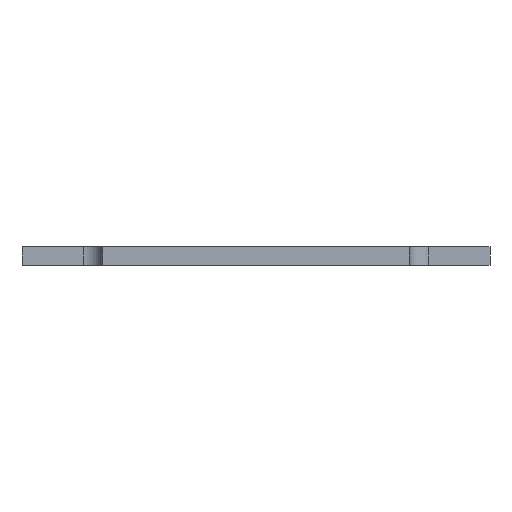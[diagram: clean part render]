
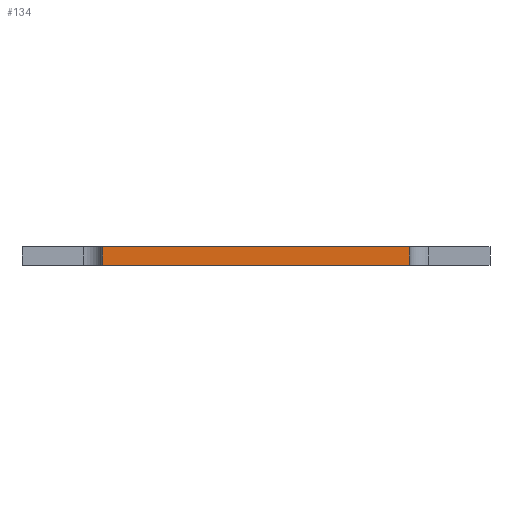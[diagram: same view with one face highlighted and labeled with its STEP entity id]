
A CAD part, front view. The second image highlights one B-rep face of the part: STEP entity #134.
In plain terms, the highlighted planar face has unit normal (0, -1, 0).
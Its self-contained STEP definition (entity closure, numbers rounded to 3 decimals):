
#80=FACE_OUTER_BOUND('',#286,.T.);
#134=ADVANCED_FACE('',(#80),#194,.F.);
#194=PLANE('',#1309);
#286=EDGE_LOOP('',(#550,#551,#552,#553));
#550=ORIENTED_EDGE('',*,*,#986,.F.);
#551=ORIENTED_EDGE('',*,*,#935,.T.);
#552=ORIENTED_EDGE('',*,*,#987,.T.);
#553=ORIENTED_EDGE('',*,*,#884,.F.);
#768=VERTEX_POINT('',#1770);
#769=VERTEX_POINT('',#1772);
#819=VERTEX_POINT('',#1873);
#820=VERTEX_POINT('',#1875);
#884=EDGE_CURVE('',#768,#769,#1037,.T.);
#935=EDGE_CURVE('',#820,#819,#1063,.T.);
#986=EDGE_CURVE('',#820,#768,#1094,.T.);
#987=EDGE_CURVE('',#819,#769,#1095,.T.);
#1037=LINE('',#1771,#1145);
#1063=LINE('',#1874,#1171);
#1094=LINE('',#1968,#1202);
#1095=LINE('',#1969,#1203);
#1145=VECTOR('',#1406,1.);
#1171=VECTOR('',#1484,1.);
#1202=VECTOR('',#1573,1.);
#1203=VECTOR('',#1574,1.);
#1309=AXIS2_PLACEMENT_3D('',#1970,#1575,#1576);
#1406=DIRECTION('',(1.,0.,0.));
#1484=DIRECTION('',(1.,0.,0.));
#1573=DIRECTION('',(0.,0.,1.));
#1574=DIRECTION('',(0.,0.,1.));
#1575=DIRECTION('',(0.,1.,0.));
#1576=DIRECTION('',(1.,0.,0.));
#1770=CARTESIAN_POINT('',(-22.605,54.036,79.249));
#1771=CARTESIAN_POINT('',(27.895,54.036,79.249));
#1772=CARTESIAN_POINT('',(25.895,54.036,79.249));
#1873=CARTESIAN_POINT('',(25.895,54.036,76.249));
#1874=CARTESIAN_POINT('',(27.895,54.036,76.249));
#1875=CARTESIAN_POINT('',(-22.605,54.036,76.249));
#1968=CARTESIAN_POINT('',(-22.605,54.036,76.249));
#1969=CARTESIAN_POINT('',(25.895,54.036,76.249));
#1970=CARTESIAN_POINT('',(27.895,54.036,76.249));
